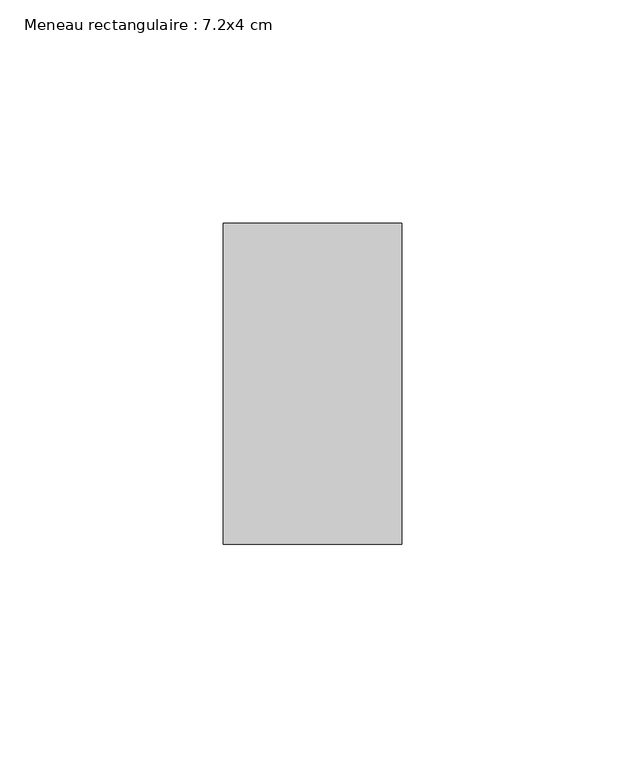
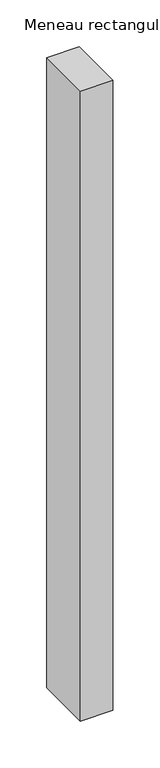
"""IFC4 building model written with IfcOpenShell, lengths in millimetres: member geometry, Meneau rectangulaire : 7.2x4 cm."""

from ifc_helpers import new_model, si_unit, frame, origin, place, context, project, spatial, polyline, outline, extrude, source, transform, mapped, element, save


def meneau_rectangulaire_7_2x4_cm_46f70f17(model_context):
    return source(origin(), model_context, "Body", "SweptSolid", [
        extrude(outline(polyline([(0.0, 36.0), (0.0, -36.0), (-40.0, -36.0), (-40.0, 36.0), (0.0, 36.0)])), frame((0.0, 0.0, -822.0), z_axis=(0.0, 0.0, 1.0), x_axis=(1.0, 0.0, 0.0)), (0.0, 0.0, 1.0), 822.0),
    ])


if __name__ == "__main__":
    model = new_model("IFC4")
    model_context = context("Model", 3, world=origin())
    ifc_project = project(units=[si_unit("LENGTHUNIT", "METRE", prefix="MILLI")], contexts=[model_context])
    site = spatial("IfcSite", under=ifc_project)
    building = spatial("IfcBuilding", under=site)
    placement = place(None, origin())
    meneau_rectangulaire_7_2x4_cm_shape = meneau_rectangulaire_7_2x4_cm_46f70f17(model_context)
    element("IfcMember", 1, ObjectType="Meneau rectangulaire : 7.2x4 cm", at=placement, inside=building, context=model_context, shape_type="MappedRepresentation", body=[
        mapped(meneau_rectangulaire_7_2x4_cm_shape, transform((0.0, 0.0, 0.0), x_axis=(1.0, 0.0, 0.0), y_axis=(0.0, 1.0, 0.0), z_axis=(0.0, 0.0, 1.0))),
    ])
    save(model, "model.ifc")
